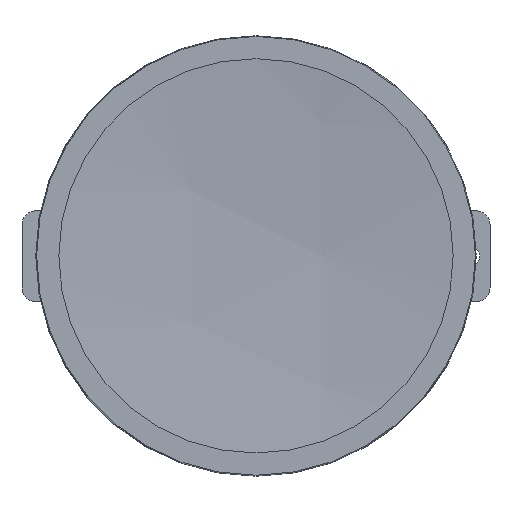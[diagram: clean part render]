
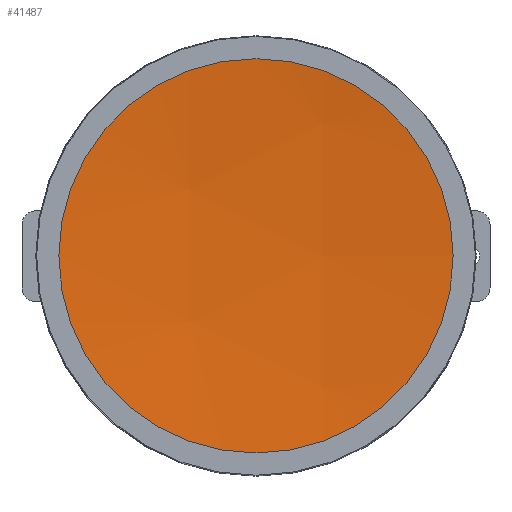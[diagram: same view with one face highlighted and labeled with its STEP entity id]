
A CAD part, top view. The second image highlights one B-rep face of the part: STEP entity #41487.
In plain terms, the highlighted spherical face has radius 643.095 mm.
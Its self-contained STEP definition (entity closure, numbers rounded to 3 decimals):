
#36447=CARTESIAN_POINT('',(0.,32.,
0.));
#36448=DIRECTION('',(0.,-1.,0.));
#36449=DIRECTION('',(-1.,0.,0.));
#36450=AXIS2_PLACEMENT_3D('',#36447,#36448,#36449);
#36452=CARTESIAN_POINT('',(0.,32.,
0.));
#36453=DIRECTION('',(0.,-1.,0.));
#36454=DIRECTION('',(1.,0.,0.));
#36455=AXIS2_PLACEMENT_3D('',#36452,#36453,#36454);
#40428=CARTESIAN_POINT('',(-71.615,32.,
0.));
#40429=CARTESIAN_POINT('',(71.615,32.,
0.));
#40430=VERTEX_POINT('',#40428);
#40431=VERTEX_POINT('',#40429);
#41478=CARTESIAN_POINT('',(0.,671.095,
0.));
#41479=DIRECTION('',(1.,0.,0.));
#41480=DIRECTION('',(0.,-0.992,-0.122));
#41481=AXIS2_PLACEMENT_3D('',#41478,#41479,#41480);
#41482=SPHERICAL_SURFACE('',#41481,643.095);
#41483=ORIENTED_EDGE('',*,*,#41471,.T.);
#41484=ORIENTED_EDGE('',*,*,#41473,.T.);
#41485=EDGE_LOOP('',(#41483,#41484));
#41486=FACE_OUTER_BOUND('',#41485,.F.);
#41487=ADVANCED_FACE('',(#41486),#41482,.F.);
#36451=CIRCLE('',#36450,71.615);
#36456=CIRCLE('',#36455,71.615);
#41471=EDGE_CURVE('',#40430,#40431,#36451,.T.);
#41473=EDGE_CURVE('',#40431,#40430,#36456,.T.);
